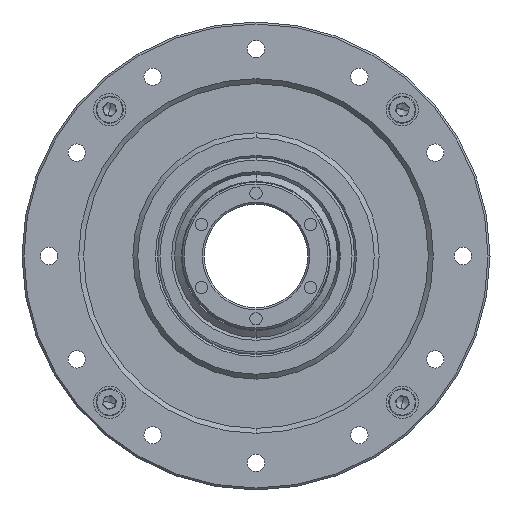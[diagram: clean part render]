
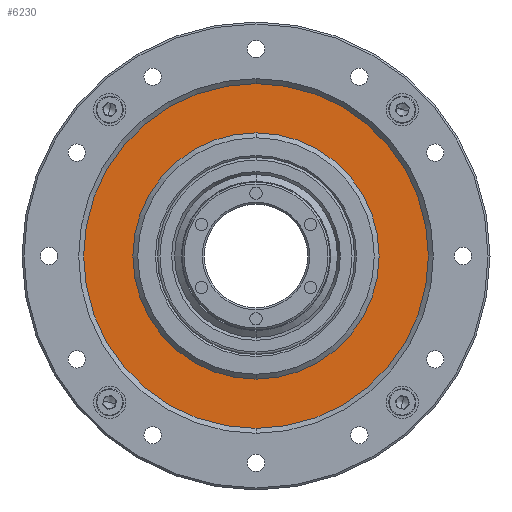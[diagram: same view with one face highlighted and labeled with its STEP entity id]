
A CAD part, front view. The second image highlights one B-rep face of the part: STEP entity #6230.
In plain terms, the highlighted planar face has unit normal (0, -1, 0).
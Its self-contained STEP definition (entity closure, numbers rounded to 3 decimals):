
#780 = VERTEX_POINT ( 'NONE', #7558 ) ;
#933 = CARTESIAN_POINT ( 'NONE',  ( 0., -23.905, 90. ) ) ;
#976 = DIRECTION ( 'NONE',  ( 0., -1., 0. ) ) ;
#1038 = DIRECTION ( 'NONE',  ( 0., 0., 1. ) ) ;
#1373 = CARTESIAN_POINT ( 'NONE',  ( 0., -23.905, 90. ) ) ;
#1464 = AXIS2_PLACEMENT_3D ( 'NONE', #5385, #5401, #5433 ) ;
#2371 = DIRECTION ( 'NONE',  ( 0., 0., 1. ) ) ;
#2674 = CARTESIAN_POINT ( 'NONE',  ( 0., -23.905, 90. ) ) ;
#2834 = DIRECTION ( 'NONE',  ( 0., -1., 0. ) ) ;
#2930 = DIRECTION ( 'NONE',  ( 0., 0., 1. ) ) ;
#3355 = EDGE_CURVE ( 'NONE', #780, #6122, #5322, .T. ) ;
#3432 = AXIS2_PLACEMENT_3D ( 'NONE', #933, #976, #1038 ) ;
#3553 = CARTESIAN_POINT ( 'NONE',  ( 0., -23.905, 65. ) ) ;
#4090 = DIRECTION ( 'NONE',  ( 0., -1., 0. ) ) ;
#4313 = CIRCLE ( 'NONE', #3432, 25. ) ;
#4372 = CARTESIAN_POINT ( 'NONE',  ( 0., -23.905, 55. ) ) ;
#5094 = EDGE_CURVE ( 'NONE', #6122, #780, #7020, .T. ) ;
#5266 = CARTESIAN_POINT ( 'NONE',  ( 0., -23.905, 115. ) ) ;
#5307 = AXIS2_PLACEMENT_3D ( 'NONE', #6195, #6442, #2371 ) ;
#5322 = CIRCLE ( 'NONE', #1464, 35. ) ;
#5385 = CARTESIAN_POINT ( 'NONE',  ( 0., -23.905, 90. ) ) ;
#5401 = DIRECTION ( 'NONE',  ( 0., -1., 0. ) ) ;
#5433 = DIRECTION ( 'NONE',  ( 0., 0., 1. ) ) ;
#5622 = EDGE_CURVE ( 'NONE', #7345, #6196, #4313, .T. ) ;
#5959 = EDGE_LOOP ( 'NONE', ( #7862, #9406 ) ) ;
#6096 = PLANE ( 'NONE',  #5307 ) ;
#6122 = VERTEX_POINT ( 'NONE', #4372 ) ;
#6195 = CARTESIAN_POINT ( 'NONE',  ( 0., -23.905, 90. ) ) ;
#6196 = VERTEX_POINT ( 'NONE', #5266 ) ;
#6230 = ADVANCED_FACE ( 'NONE', ( #7054, #7467 ), #6096, .T. ) ;
#6442 = DIRECTION ( 'NONE',  ( 0., -1., 0. ) ) ;
#6676 = CIRCLE ( 'NONE', #7081, 25. ) ;
#7020 = CIRCLE ( 'NONE', #8516, 35. ) ;
#7054 = FACE_BOUND ( 'NONE', #5959, .T. ) ;
#7081 = AXIS2_PLACEMENT_3D ( 'NONE', #1373, #2834, #2930 ) ;
#7345 = VERTEX_POINT ( 'NONE', #3553 ) ;
#7467 = FACE_OUTER_BOUND ( 'NONE', #9164, .T. ) ;
#7558 = CARTESIAN_POINT ( 'NONE',  ( 0., -23.905, 125. ) ) ;
#7862 = ORIENTED_EDGE ( 'NONE', *, *, #5622, .F. ) ;
#8316 = EDGE_CURVE ( 'NONE', #6196, #7345, #6676, .T. ) ;
#8425 = DIRECTION ( 'NONE',  ( 0., 0., 1. ) ) ;
#8516 = AXIS2_PLACEMENT_3D ( 'NONE', #2674, #4090, #8425 ) ;
#9164 = EDGE_LOOP ( 'NONE', ( #9659, #9425 ) ) ;
#9406 = ORIENTED_EDGE ( 'NONE', *, *, #8316, .F. ) ;
#9425 = ORIENTED_EDGE ( 'NONE', *, *, #5094, .T. ) ;
#9659 = ORIENTED_EDGE ( 'NONE', *, *, #3355, .T. ) ;
